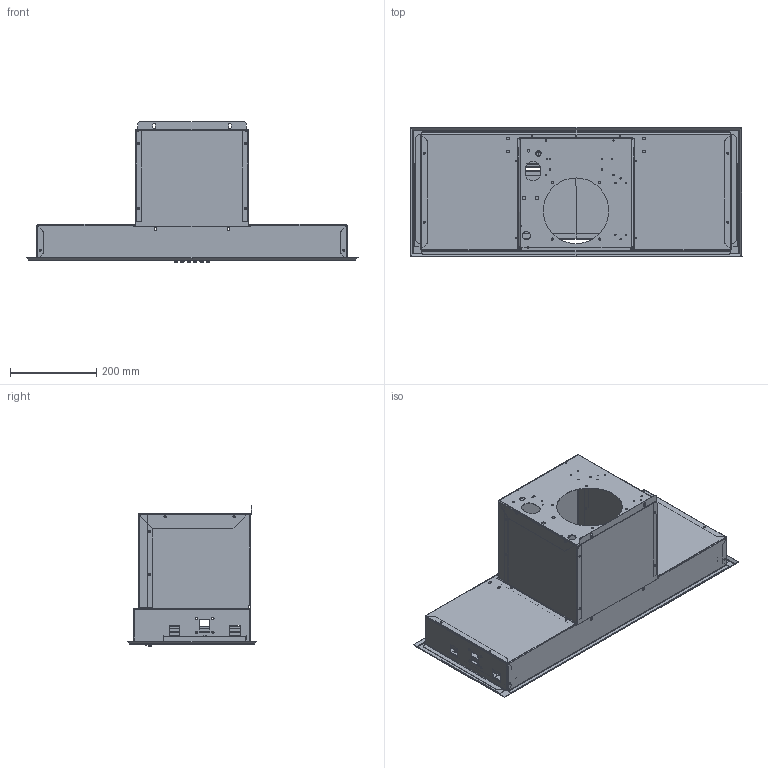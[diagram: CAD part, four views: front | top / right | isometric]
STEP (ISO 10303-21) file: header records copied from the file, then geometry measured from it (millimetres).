
FILE_DESCRIPTION(/* description */ (''),/* implementation_level */ '2;1');
FILE_NAME(/* name */ 'KSEG78PXE.stp',/* time_stamp */ '2017-09-15T09:44:44+02:00',/* author */ (''),/* organization */ (''),/* preprocessor_version */ 'ST-DEVELOPER v16',/* originating_system */ 'SIEMENS PLM Software NX 11.0',/* authorisation */ '');
FILE_SCHEMA (('AUTOMOTIVE_DESIGN { 1 0 10303 214 3 1 1 1 }'));
Products named in the file (1): fave1D0C86B8b90d
Bounding box: 769.59 x 299.59 x 325.8 mm (x, y, z)
Volume: 931358.7 mm3; surface area: 1974785.7 mm2
Topology: 13 solids, 13 shells, 2235 faces, 5788 edges, 3584 vertices
Faces by surface type: cylinder 1066, plane 1031, bspline 64, torus 32, sphere 24, revolution 8, extrusion 6, cone 4
Entity records: 74744 total; most frequent: CARTESIAN_POINT 19250, DIRECTION 11625, ORIENTED_EDGE 11528, EDGE_CURVE 5764, AXIS2_PLACEMENT_3D 4184, VERTEX_POINT 3584, VECTOR 3249, LINE 3243
